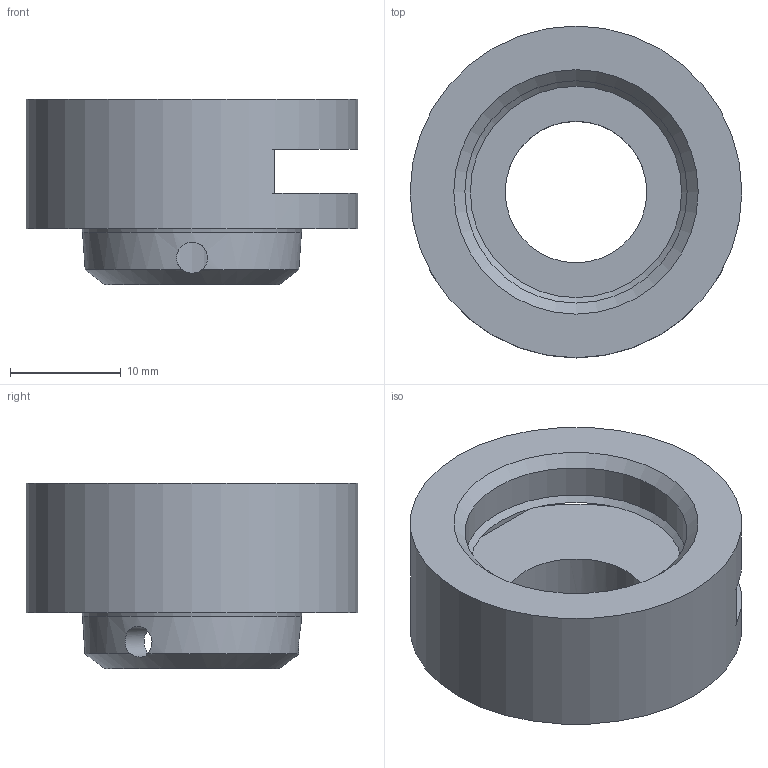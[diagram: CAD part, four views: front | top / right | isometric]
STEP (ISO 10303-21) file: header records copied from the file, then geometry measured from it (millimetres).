
FILE_DESCRIPTION(/* description */ (''),/* implementation_level */ '2;1');
FILE_NAME(/* name */ 'C:\Users\diederichbenedict\Dropbox\Dokumente\Promotion\PROJECTS\openUC2-CAD\INVENTOR\30_Linear_Stage_NEMA11_baseholder_bayonetmount_25mmFiltermount.stp',/* time_stamp */ '2023-09-08T14:06:36+02:00',/* author */ ('diederichbenedict'),/* organization */ (''),/* preprocessor_version */ 'ST-DEVELOPER v18.1',/* originating_system */ 'Autodesk Inventor 2022',/* authorisation */ '');
FILE_SCHEMA (('AUTOMOTIVE_DESIGN { 1 0 10303 214 3 1 1 }'));
Length unit declared in the file: millimetre
Products named in the file (1): 30_Linear_Stage_NEMA11_baseholder_bayonetmount_25mmFiltermount
Bounding box: 30 x 30 x 16.75 mm (x, y, z)
Volume: 4748 mm3; surface area: 3830.1 mm2
Topology: 1 solids, 1 shells, 19 faces, 52 edges, 34 vertices
Faces by surface type: plane 7, cylinder 7, cone 5
Full cylindrical faces by diameter (mm): 2.8 x3, 12.794 x1, 20.1 x1, 30 x1
Entity records: 885 total; most frequent: CARTESIAN_POINT 343, ORIENTED_EDGE 104, DIRECTION 101, EDGE_CURVE 52, AXIS2_PLACEMENT_3D 41, VERTEX_POINT 34, EDGE_LOOP 28, CIRCLE 21
